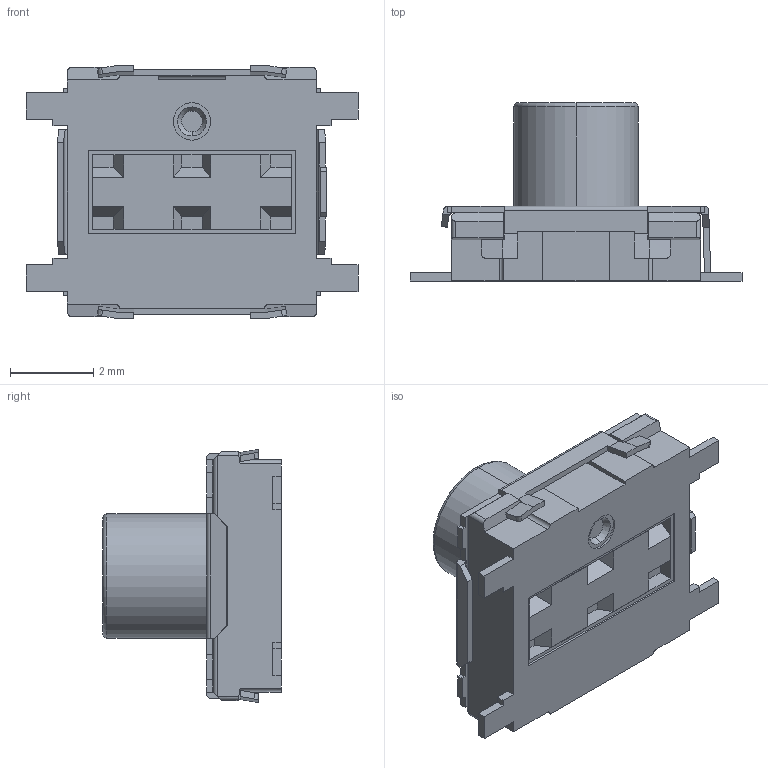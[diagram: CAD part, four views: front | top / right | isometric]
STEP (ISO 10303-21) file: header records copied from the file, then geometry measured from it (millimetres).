
FILE_DESCRIPTION (( 'STEP AP203' ), '1' );
FILE_NAME ('EVP_straight terminal_with_GND.STEP', '2020-09-24T05:08:37', ( '' ), ( '' ), 'SwSTEP 2.0', 'SolidWorks 2018', '' );
FILE_SCHEMA (( 'CONFIG_CONTROL_DESIGN' ));
Length unit declared in the file: metre
Products named in the file (1): EVP_straight terminal_with_GND
Bounding box: 8 x 4.3 x 6.1 mm (x, y, z)
Volume: 78.3 mm3; surface area: 170.8 mm2
Topology: 1 solids, 1 shells, 230 faces, 650 edges, 422 vertices
Faces by surface type: plane 183, cylinder 27, bspline 16, cone 2, torus 2
Entity records: 7759 total; most frequent: CARTESIAN_POINT 1957, ORIENTED_EDGE 1300, DIRECTION 1026, EDGE_CURVE 650, LINE 504, VECTOR 504, VERTEX_POINT 422, AXIS2_PLACEMENT_3D 261
